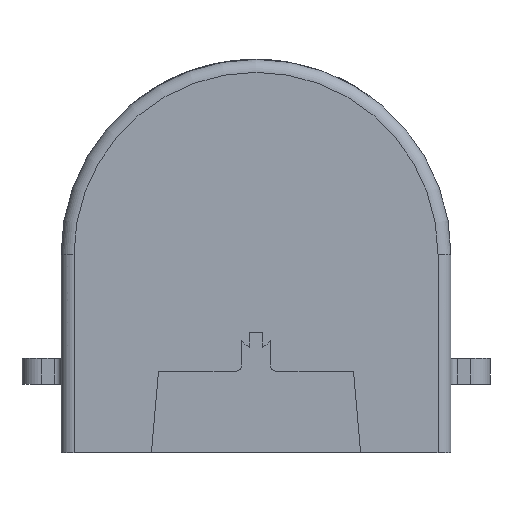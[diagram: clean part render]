
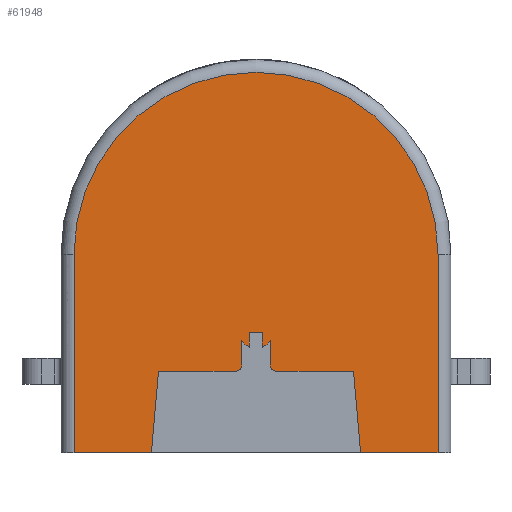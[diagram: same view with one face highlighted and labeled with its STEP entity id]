
A CAD part, front view. The second image highlights one B-rep face of the part: STEP entity #61948.
In plain terms, the highlighted planar face has unit normal (0, -1, 0).
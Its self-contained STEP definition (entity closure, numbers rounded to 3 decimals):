
#1376=CIRCLE('',#64395,1.);
#1390=CIRCLE('',#64418,1.);
#1421=CIRCLE('',#64529,28.);
#1422=CIRCLE('',#64530,2.5);
#1423=CIRCLE('',#64531,2.5);
#2964=ORIENTED_EDGE('',*,*,#15875,.T.);
#2965=ORIENTED_EDGE('',*,*,#16216,.F.);
#2966=ORIENTED_EDGE('',*,*,#16217,.T.);
#2967=ORIENTED_EDGE('',*,*,#16213,.T.);
#2968=ORIENTED_EDGE('',*,*,#16218,.T.);
#2969=ORIENTED_EDGE('',*,*,#16219,.T.);
#2970=ORIENTED_EDGE('',*,*,#16220,.T.);
#2971=ORIENTED_EDGE('',*,*,#16221,.F.);
#2972=ORIENTED_EDGE('',*,*,#15881,.T.);
#2973=ORIENTED_EDGE('',*,*,#16024,.T.);
#2974=ORIENTED_EDGE('',*,*,#15984,.T.);
#2975=ORIENTED_EDGE('',*,*,#16222,.F.);
#2976=ORIENTED_EDGE('',*,*,#16223,.T.);
#2977=ORIENTED_EDGE('',*,*,#16224,.T.);
#2978=ORIENTED_EDGE('',*,*,#16225,.T.);
#2979=ORIENTED_EDGE('',*,*,#16226,.F.);
#2980=ORIENTED_EDGE('',*,*,#15982,.T.);
#2981=ORIENTED_EDGE('',*,*,#15978,.T.);
#15875=EDGE_CURVE('',#22570,#22569,#27029,.T.);
#15881=EDGE_CURVE('',#22575,#22576,#27035,.T.);
#15978=EDGE_CURVE('',#22664,#22570,#1376,.F.);
#15982=EDGE_CURVE('',#22667,#22664,#27071,.T.);
#15984=EDGE_CURVE('',#22668,#22669,#27073,.T.);
#16024=EDGE_CURVE('',#22576,#22668,#1390,.F.);
#16213=EDGE_CURVE('',#22838,#22837,#27213,.F.);
#16216=EDGE_CURVE('',#22840,#22569,#27215,.F.);
#16217=EDGE_CURVE('',#22840,#22838,#27216,.T.);
#16218=EDGE_CURVE('',#22837,#22841,#1421,.F.);
#16219=EDGE_CURVE('',#22841,#22842,#27217,.T.);
#16220=EDGE_CURVE('',#22842,#22843,#27218,.T.);
#16221=EDGE_CURVE('',#22575,#22843,#27219,.F.);
#16222=EDGE_CURVE('',#22844,#22669,#1422,.T.);
#16223=EDGE_CURVE('',#22844,#22845,#27220,.T.);
#16224=EDGE_CURVE('',#22845,#22846,#27221,.T.);
#16225=EDGE_CURVE('',#22846,#22847,#27222,.T.);
#16226=EDGE_CURVE('',#22667,#22847,#1423,.T.);
#22569=VERTEX_POINT('',#80368);
#22570=VERTEX_POINT('',#80370);
#22575=VERTEX_POINT('',#80383);
#22576=VERTEX_POINT('',#80384);
#22664=VERTEX_POINT('',#80783);
#22667=VERTEX_POINT('',#80791);
#22668=VERTEX_POINT('',#80795);
#22669=VERTEX_POINT('',#80796);
#22837=VERTEX_POINT('',#81427);
#22838=VERTEX_POINT('',#81429);
#22840=VERTEX_POINT('',#81435);
#22841=VERTEX_POINT('',#81438);
#22842=VERTEX_POINT('',#81440);
#22843=VERTEX_POINT('',#81442);
#22844=VERTEX_POINT('',#81445);
#22845=VERTEX_POINT('',#81447);
#22846=VERTEX_POINT('',#81449);
#22847=VERTEX_POINT('',#81451);
#27029=LINE('',#80369,#32009);
#27035=LINE('',#80382,#32015);
#27071=LINE('',#80790,#32051);
#27073=LINE('',#80794,#32053);
#27213=LINE('',#81428,#32193);
#27215=LINE('',#81434,#32195);
#27216=LINE('',#81436,#32196);
#27217=LINE('',#81439,#32197);
#27218=LINE('',#81441,#32198);
#27219=LINE('',#81443,#32199);
#27220=LINE('',#81446,#32200);
#27221=LINE('',#81448,#32201);
#27222=LINE('',#81450,#32202);
#32009=VECTOR('',#68045,1000.);
#32015=VECTOR('',#68055,1000.);
#32051=VECTOR('',#68179,1000.);
#32053=VECTOR('',#68183,1000.);
#32193=VECTOR('',#68579,1000.);
#32195=VECTOR('',#68585,1000.);
#32196=VECTOR('',#68586,1000.);
#32197=VECTOR('',#68589,1000.);
#32198=VECTOR('',#68590,1000.);
#32199=VECTOR('',#68591,1000.);
#32200=VECTOR('',#68594,1000.);
#32201=VECTOR('',#68595,1000.);
#32202=VECTOR('',#68596,1000.);
#37067=EDGE_LOOP('',(#2964,#2965,#2966,#2967,#2968,#2969,#2970,#2971,#2972,
#2973,#2974,#2975,#2976,#2977,#2978,#2979,#2980,#2981));
#39929=FACE_BOUND('',#37067,.T.);
#42737=PLANE('',#64528);
#61948=ADVANCED_FACE('',(#39929),#42737,.F.);
#64395=AXIS2_PLACEMENT_3D('',#80782,#68171,#68172);
#64418=AXIS2_PLACEMENT_3D('',#80878,#68249,#68250);
#64528=AXIS2_PLACEMENT_3D('',#81433,#68583,#68584);
#64529=AXIS2_PLACEMENT_3D('',#81437,#68587,#68588);
#64530=AXIS2_PLACEMENT_3D('',#81444,#68592,#68593);
#64531=AXIS2_PLACEMENT_3D('',#81452,#68597,#68598);
#68045=DIRECTION('',(1.,0.,0.));
#68055=DIRECTION('',(1.,0.,0.));
#68171=DIRECTION('',(0.,1.,0.));
#68172=DIRECTION('',(-1.,0.,0.));
#68179=DIRECTION('',(0.,0.,-1.));
#68183=DIRECTION('',(0.,0.,1.));
#68249=DIRECTION('',(0.,1.,0.));
#68250=DIRECTION('',(-1.,0.,0.));
#68579=DIRECTION('',(0.,0.,-1.));
#68583=DIRECTION('',(0.,1.,0.));
#68584=DIRECTION('',(-1.,0.,0.));
#68585=DIRECTION('',(0.087,0.,-0.996));
#68586=DIRECTION('',(1.,0.,0.));
#68587=DIRECTION('',(0.,1.,0.));
#68588=DIRECTION('',(-1.,0.,0.));
#68589=DIRECTION('',(0.,0.,-1.));
#68590=DIRECTION('',(1.,0.,0.));
#68591=DIRECTION('',(0.087,0.,0.996));
#68592=DIRECTION('',(0.,1.,0.));
#68593=DIRECTION('',(1.,0.,0.));
#68594=DIRECTION('',(0.,0.,1.));
#68595=DIRECTION('',(1.,0.,0.));
#68596=DIRECTION('',(0.,0.,-1.));
#68597=DIRECTION('',(0.,1.,0.));
#68598=DIRECTION('',(1.,0.,0.));
#80368=CARTESIAN_POINT('',(15.,-62.5,-7.));
#80369=CARTESIAN_POINT('',(-30.,-62.5,-7.));
#80370=CARTESIAN_POINT('',(3.2,-62.5,-7.));
#80382=CARTESIAN_POINT('',(-30.,-62.5,-7.));
#80383=CARTESIAN_POINT('',(-15.,-62.5,-7.));
#80384=CARTESIAN_POINT('',(-3.2,-62.5,-7.));
#80782=CARTESIAN_POINT('',(3.2,-62.5,-6.));
#80783=CARTESIAN_POINT('',(2.2,-62.5,-6.));
#80790=CARTESIAN_POINT('',(2.2,-62.5,41.));
#80791=CARTESIAN_POINT('',(2.2,-62.5,-2.187));
#80794=CARTESIAN_POINT('',(-2.2,-62.5,41.));
#80795=CARTESIAN_POINT('',(-2.2,-62.5,-6.));
#80796=CARTESIAN_POINT('',(-2.2,-62.5,-2.187));
#80878=CARTESIAN_POINT('',(-3.2,-62.5,-6.));
#81427=CARTESIAN_POINT('',(28.,-62.5,11.));
#81428=CARTESIAN_POINT('',(28.,-62.5,41.));
#81429=CARTESIAN_POINT('',(28.,-62.5,-19.5));
#81433=CARTESIAN_POINT('',(-30.,-62.5,41.));
#81434=CARTESIAN_POINT('',(15.743,-62.5,-15.498));
#81435=CARTESIAN_POINT('',(16.094,-62.5,-19.5));
#81436=CARTESIAN_POINT('',(-30.,-62.5,-19.5));
#81437=CARTESIAN_POINT('',(0.,-62.5,11.));
#81438=CARTESIAN_POINT('',(-28.,-62.5,11.));
#81439=CARTESIAN_POINT('',(-28.,-62.5,41.));
#81440=CARTESIAN_POINT('',(-28.,-62.5,-19.5));
#81441=CARTESIAN_POINT('',(-30.,-62.5,-19.5));
#81442=CARTESIAN_POINT('',(-16.094,-62.5,-19.5));
#81443=CARTESIAN_POINT('',(-16.199,-62.5,-20.707));
#81444=CARTESIAN_POINT('',(0.,-62.5,-1.));
#81445=CARTESIAN_POINT('',(-1.,-62.5,-3.291));
#81446=CARTESIAN_POINT('',(-1.,-62.5,-1.));
#81447=CARTESIAN_POINT('',(-1.,-62.5,-1.));
#81448=CARTESIAN_POINT('',(-1.,-62.5,-1.));
#81449=CARTESIAN_POINT('',(1.,-62.5,-1.));
#81450=CARTESIAN_POINT('',(1.,-62.5,-1.));
#81451=CARTESIAN_POINT('',(1.,-62.5,-3.291));
#81452=CARTESIAN_POINT('',(0.,-62.5,-1.));
